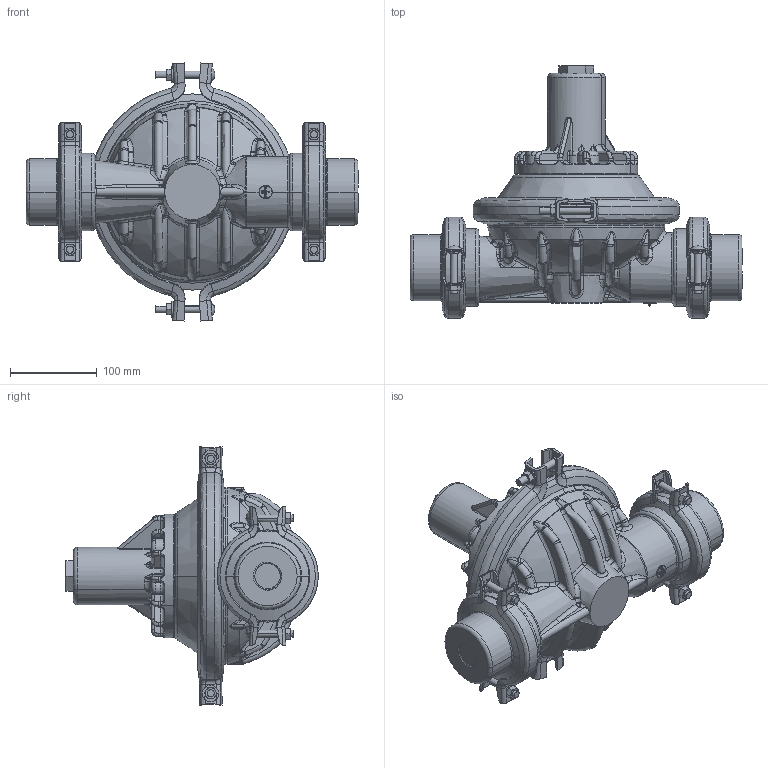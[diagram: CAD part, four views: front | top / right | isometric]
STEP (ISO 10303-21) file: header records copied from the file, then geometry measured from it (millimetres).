
FILE_DESCRIPTION (( 'STEP AP203' ), '1' );
FILE_NAME ('SD1-Plastic_Top.STEP', '2026-04-30T06:37:53', ( '' ), ( '' ), 'SwSTEP 2.0', 'SolidWorks 2022', '' );
FILE_SCHEMA (( 'CONFIG_CONTROL_DESIGN' ));
Length unit declared in the file: inch
Products named in the file (1): SD1-Plastic_Top
Bounding box: 382.78 x 290.77 x 297.65 mm (x, y, z)
Volume: 5423722.5 mm3; surface area: 388492.2 mm2
Topology: 1 solids, 1 shells, 1943 faces, 4911 edges, 2935 vertices
Faces by surface type: bspline 685, plane 515, cylinder 315, torus 197, cone 190, sphere 41
Entity records: 141187 total; most frequent: CARTESIAN_POINT 101628, ORIENTED_EDGE 9814, DIRECTION 5997, EDGE_CURVE 4907, VERTEX_POINT 2934, B_SPLINE_CURVE_WITH_KNOTS 2351, AXIS2_PLACEMENT_3D 2336, EDGE_LOOP 1995
